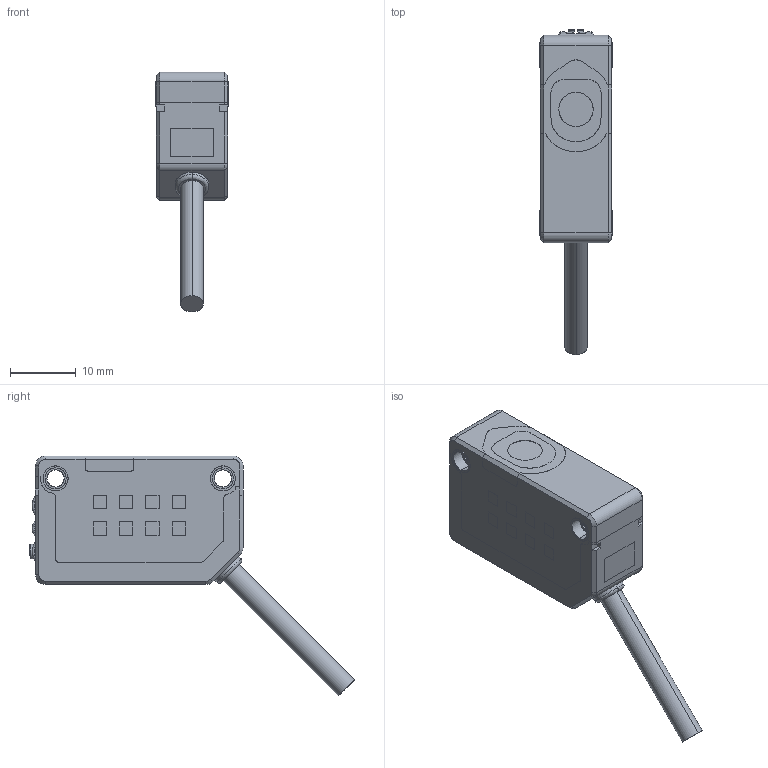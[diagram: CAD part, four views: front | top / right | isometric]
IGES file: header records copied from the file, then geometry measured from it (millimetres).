
Global section: file name: L:\DL_Automation\RES\SIMP_PRJ\SS S3Z\WorkingArea\Disegni 3D-(Parasolid-STEP)\DSD\S3Z T51\S3Z T51_CABLE.igs; native system: NX V10.0; preprocessor: SIEMENS PLM Software NX 10.0; date: 20170421.174122; units: millimetre
Bounding box: 11 x 49.31 x 36.41 mm (x, y, z)
Surface area: 2681.9 mm2 (no closed solid volume)
Topology: 0 solids, 0 shells, 234 faces, 1412 edges, 1412 vertices
Faces by surface type: bspline 234
